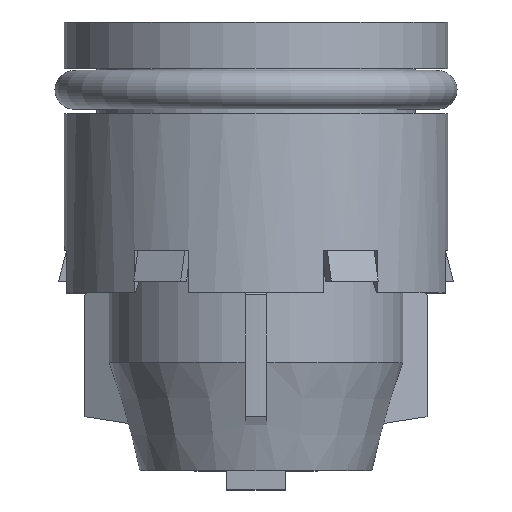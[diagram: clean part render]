
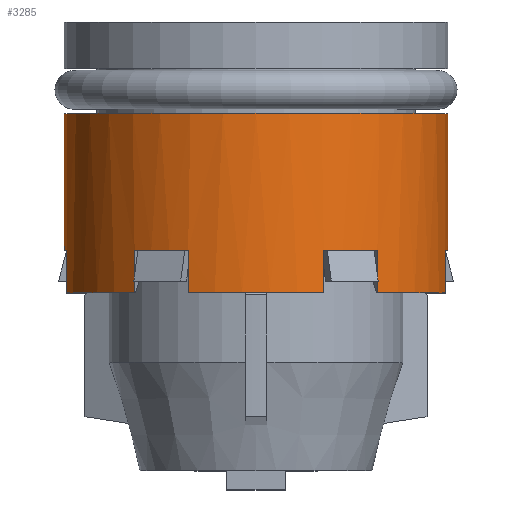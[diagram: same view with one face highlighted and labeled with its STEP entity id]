
A CAD part, top view. The second image highlights one B-rep face of the part: STEP entity #3285.
In plain terms, the highlighted cylindrical face has radius 12.4 mm (diameter 24.8 mm), a full revolution.
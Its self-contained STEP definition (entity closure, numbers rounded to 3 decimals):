
#1743=CARTESIAN_POINT('',(613.078,402.787,11.598));
#1744=VERTEX_POINT('',#1743);
#1745=CARTESIAN_POINT('',(613.078,400.037,11.598));
#1746=VERTEX_POINT('',#1745);
#1747=CARTESIAN_POINT('',(613.078,402.787,11.598));
#1748=DIRECTION('',(0.0,-1.0,0.0));
#1749=VECTOR('',#1748,2.75);
#1750=LINE('',#1747,#1749);
#1751=EDGE_CURVE('',#1744,#1746,#1750,.T.);
#1774=CARTESIAN_POINT('',(609.614,400.037,9.598));
#1775=VERTEX_POINT('',#1774);
#1776=CARTESIAN_POINT('',(609.614,402.787,9.598));
#1777=VERTEX_POINT('',#1776);
#1778=CARTESIAN_POINT('',(609.614,400.037,9.598));
#1779=DIRECTION('',(0.0,1.0,0.0));
#1780=VECTOR('',#1779,2.75);
#1781=LINE('',#1778,#1780);
#1782=EDGE_CURVE('',#1775,#1777,#1781,.T.);
#1805=CARTESIAN_POINT('',(617.465,402.787,0.0));
#1806=DIRECTION('',(0.0,1.0,0.0));
#1807=DIRECTION('',(1.0,0.0,0.0));
#1808=AXIS2_PLACEMENT_3D('',#1805,#1806,#1807);
#1809=CIRCLE('',#1808,12.4);
#1810=EDGE_CURVE('',#1777,#1744,#1809,.T.);
#1829=CARTESIAN_POINT('',(605.227,402.787,2.));
#1830=VERTEX_POINT('',#1829);
#1831=CARTESIAN_POINT('',(605.227,400.037,2.));
#1832=VERTEX_POINT('',#1831);
#1833=CARTESIAN_POINT('',(605.227,402.787,2.));
#1834=DIRECTION('',(0.0,-1.0,0.0));
#1835=VECTOR('',#1834,2.75);
#1836=LINE('',#1833,#1835);
#1837=EDGE_CURVE('',#1830,#1832,#1836,.T.);
#1860=CARTESIAN_POINT('',(605.227,400.037,-2.));
#1861=VERTEX_POINT('',#1860);
#1862=CARTESIAN_POINT('',(605.227,402.787,-2.));
#1863=VERTEX_POINT('',#1862);
#1864=CARTESIAN_POINT('',(605.227,400.037,-2.));
#1865=DIRECTION('',(0.0,1.0,0.0));
#1866=VECTOR('',#1865,2.75);
#1867=LINE('',#1864,#1866);
#1868=EDGE_CURVE('',#1861,#1863,#1867,.T.);
#1891=CARTESIAN_POINT('',(617.465,402.787,0.0));
#1892=DIRECTION('',(0.0,1.0,0.0));
#1893=DIRECTION('',(1.0,0.0,0.0));
#1894=AXIS2_PLACEMENT_3D('',#1891,#1892,#1893);
#1895=CIRCLE('',#1894,12.4);
#1896=EDGE_CURVE('',#1863,#1830,#1895,.T.);
#1915=CARTESIAN_POINT('',(609.614,402.787,-9.598));
#1916=VERTEX_POINT('',#1915);
#1917=CARTESIAN_POINT('',(609.614,400.037,-9.598));
#1918=VERTEX_POINT('',#1917);
#1919=CARTESIAN_POINT('',(609.614,402.787,-9.598));
#1920=DIRECTION('',(0.0,-1.0,0.0));
#1921=VECTOR('',#1920,2.75);
#1922=LINE('',#1919,#1921);
#1923=EDGE_CURVE('',#1916,#1918,#1922,.T.);
#1962=CARTESIAN_POINT('',(613.078,400.037,-11.598));
#1963=VERTEX_POINT('',#1962);
#1964=CARTESIAN_POINT('',(613.078,402.787,-11.598));
#1965=VERTEX_POINT('',#1964);
#1966=CARTESIAN_POINT('',(613.078,400.037,-11.598));
#1967=DIRECTION('',(0.0,1.0,0.0));
#1968=VECTOR('',#1967,2.75);
#1969=LINE('',#1966,#1968);
#1970=EDGE_CURVE('',#1963,#1965,#1969,.T.);
#2009=CARTESIAN_POINT('',(617.465,402.787,0.0));
#2010=DIRECTION('',(0.0,1.0,0.0));
#2011=DIRECTION('',(1.0,0.0,0.0));
#2012=AXIS2_PLACEMENT_3D('',#2009,#2010,#2011);
#2013=CIRCLE('',#2012,12.4);
#2014=EDGE_CURVE('',#1965,#1916,#2013,.T.);
#2039=CARTESIAN_POINT('',(621.852,402.787,-11.598));
#2040=VERTEX_POINT('',#2039);
#2041=CARTESIAN_POINT('',(621.852,400.037,-11.598));
#2042=VERTEX_POINT('',#2041);
#2043=CARTESIAN_POINT('',(621.852,402.787,-11.598));
#2044=DIRECTION('',(0.0,-1.0,0.0));
#2045=VECTOR('',#2044,2.75);
#2046=LINE('',#2043,#2045);
#2047=EDGE_CURVE('',#2040,#2042,#2046,.T.);
#2086=CARTESIAN_POINT('',(625.316,400.037,-9.598));
#2087=VERTEX_POINT('',#2086);
#2088=CARTESIAN_POINT('',(625.316,402.787,-9.598));
#2089=VERTEX_POINT('',#2088);
#2090=CARTESIAN_POINT('',(625.316,400.037,-9.598));
#2091=DIRECTION('',(0.0,1.0,0.0));
#2092=VECTOR('',#2091,2.75);
#2093=LINE('',#2090,#2092);
#2094=EDGE_CURVE('',#2087,#2089,#2093,.T.);
#2133=CARTESIAN_POINT('',(617.465,402.787,0.0));
#2134=DIRECTION('',(0.0,1.0,0.0));
#2135=DIRECTION('',(1.0,0.0,0.0));
#2136=AXIS2_PLACEMENT_3D('',#2133,#2134,#2135);
#2137=CIRCLE('',#2136,12.4);
#2138=EDGE_CURVE('',#2089,#2040,#2137,.T.);
#2163=CARTESIAN_POINT('',(629.703,402.787,-2.));
#2164=VERTEX_POINT('',#2163);
#2165=CARTESIAN_POINT('',(629.703,400.037,-2.));
#2166=VERTEX_POINT('',#2165);
#2167=CARTESIAN_POINT('',(629.703,402.787,-2.));
#2168=DIRECTION('',(0.0,-1.0,0.0));
#2169=VECTOR('',#2168,2.75);
#2170=LINE('',#2167,#2169);
#2171=EDGE_CURVE('',#2164,#2166,#2170,.T.);
#2210=CARTESIAN_POINT('',(629.703,400.037,2.));
#2211=VERTEX_POINT('',#2210);
#2212=CARTESIAN_POINT('',(629.703,402.787,2.));
#2213=VERTEX_POINT('',#2212);
#2214=CARTESIAN_POINT('',(629.703,400.037,2.));
#2215=DIRECTION('',(0.0,1.0,0.0));
#2216=VECTOR('',#2215,2.75);
#2217=LINE('',#2214,#2216);
#2218=EDGE_CURVE('',#2211,#2213,#2217,.T.);
#2257=CARTESIAN_POINT('',(617.465,402.787,0.0));
#2258=DIRECTION('',(0.0,1.0,0.0));
#2259=DIRECTION('',(1.0,0.0,0.0));
#2260=AXIS2_PLACEMENT_3D('',#2257,#2258,#2259);
#2261=CIRCLE('',#2260,12.4);
#2262=EDGE_CURVE('',#2213,#2164,#2261,.T.);
#2444=CARTESIAN_POINT('',(625.316,400.037,9.598));
#2445=VERTEX_POINT('',#2444);
#2446=CARTESIAN_POINT('',(617.465,400.037,0.0));
#2447=DIRECTION('',(0.0,-1.0,0.0));
#2448=DIRECTION('',(1.0,0.0,0.0));
#2449=AXIS2_PLACEMENT_3D('',#2446,#2447,#2448);
#2450=CIRCLE('',#2449,12.4);
#2451=EDGE_CURVE('',#2211,#2445,#2450,.T.);
#2469=CARTESIAN_POINT('',(617.465,400.037,0.0));
#2470=DIRECTION('',(0.0,-1.0,0.0));
#2471=DIRECTION('',(1.0,0.0,0.0));
#2472=AXIS2_PLACEMENT_3D('',#2469,#2470,#2471);
#2473=CIRCLE('',#2472,12.4);
#2474=EDGE_CURVE('',#2087,#2166,#2473,.T.);
#2495=CARTESIAN_POINT('',(617.465,400.037,0.0));
#2496=DIRECTION('',(0.0,-1.0,0.0));
#2497=DIRECTION('',(1.0,0.0,0.0));
#2498=AXIS2_PLACEMENT_3D('',#2495,#2496,#2497);
#2499=CIRCLE('',#2498,12.4);
#2500=EDGE_CURVE('',#1963,#2042,#2499,.T.);
#2513=CARTESIAN_POINT('',(617.465,400.037,0.0));
#2514=DIRECTION('',(0.0,-1.0,0.0));
#2515=DIRECTION('',(1.0,0.0,0.0));
#2516=AXIS2_PLACEMENT_3D('',#2513,#2514,#2515);
#2517=CIRCLE('',#2516,12.4);
#2518=EDGE_CURVE('',#1861,#1918,#2517,.T.);
#2539=CARTESIAN_POINT('',(617.465,400.037,0.0));
#2540=DIRECTION('',(0.0,-1.0,0.0));
#2541=DIRECTION('',(1.0,0.0,0.0));
#2542=AXIS2_PLACEMENT_3D('',#2539,#2540,#2541);
#2543=CIRCLE('',#2542,12.4);
#2544=EDGE_CURVE('',#1775,#1832,#2543,.T.);
#2692=CARTESIAN_POINT('',(625.316,402.787,9.598));
#2693=VERTEX_POINT('',#2692);
#2694=CARTESIAN_POINT('',(625.316,402.787,9.598));
#2695=DIRECTION('',(0.0,-1.0,0.0));
#2696=VECTOR('',#2695,2.75);
#2697=LINE('',#2694,#2696);
#2698=EDGE_CURVE('',#2693,#2445,#2697,.T.);
#2716=CARTESIAN_POINT('',(621.852,400.037,11.598));
#2717=VERTEX_POINT('',#2716);
#2718=CARTESIAN_POINT('',(621.852,402.787,11.598));
#2719=VERTEX_POINT('',#2718);
#2720=CARTESIAN_POINT('',(621.852,400.037,11.598));
#2721=DIRECTION('',(0.0,1.0,0.0));
#2722=VECTOR('',#2721,2.75);
#2723=LINE('',#2720,#2722);
#2724=EDGE_CURVE('',#2717,#2719,#2723,.T.);
#2747=CARTESIAN_POINT('',(617.465,402.787,0.0));
#2748=DIRECTION('',(0.0,1.0,0.0));
#2749=DIRECTION('',(1.0,0.0,0.0));
#2750=AXIS2_PLACEMENT_3D('',#2747,#2748,#2749);
#2751=CIRCLE('',#2750,12.4);
#2752=EDGE_CURVE('',#2719,#2693,#2751,.T.);
#2782=CARTESIAN_POINT('',(617.465,400.037,0.0));
#2783=DIRECTION('',(0.0,-1.0,0.0));
#2784=DIRECTION('',(1.0,0.0,0.0));
#2785=AXIS2_PLACEMENT_3D('',#2782,#2783,#2784);
#2786=CIRCLE('',#2785,12.4);
#2787=EDGE_CURVE('',#2717,#1746,#2786,.T.);
#3236=CARTESIAN_POINT('',(629.865,411.637,0.0));
#3237=VERTEX_POINT('',#3236);
#3238=CARTESIAN_POINT('',(617.465,411.637,0.0));
#3239=DIRECTION('',(0.0,-1.0,0.0));
#3240=DIRECTION('',(1.0,0.0,0.0));
#3241=AXIS2_PLACEMENT_3D('',#3238,#3239,#3240);
#3242=CIRCLE('',#3241,12.4);
#3243=EDGE_CURVE('',#3237,#3237,#3242,.T.);
#3251=CARTESIAN_POINT('',(617.465,405.837,0.0));
#3252=DIRECTION('',(0.0,-1.0,0.0));
#3253=DIRECTION('',(1.0,0.0,0.0));
#3254=AXIS2_PLACEMENT_3D('',#3251,#3252,#3253);
#3255=CYLINDRICAL_SURFACE('',#3254,12.4);
#3256=ORIENTED_EDGE('',*,*,#1751,.T.);
#3257=ORIENTED_EDGE('',*,*,#2787,.F.);
#3258=ORIENTED_EDGE('',*,*,#2724,.T.);
#3259=ORIENTED_EDGE('',*,*,#2752,.T.);
#3260=ORIENTED_EDGE('',*,*,#2698,.T.);
#3261=ORIENTED_EDGE('',*,*,#2451,.F.);
#3262=ORIENTED_EDGE('',*,*,#2218,.T.);
#3263=ORIENTED_EDGE('',*,*,#2262,.T.);
#3264=ORIENTED_EDGE('',*,*,#2171,.T.);
#3265=ORIENTED_EDGE('',*,*,#2474,.F.);
#3266=ORIENTED_EDGE('',*,*,#2094,.T.);
#3267=ORIENTED_EDGE('',*,*,#2138,.T.);
#3268=ORIENTED_EDGE('',*,*,#2047,.T.);
#3269=ORIENTED_EDGE('',*,*,#2500,.F.);
#3270=ORIENTED_EDGE('',*,*,#1970,.T.);
#3271=ORIENTED_EDGE('',*,*,#2014,.T.);
#3272=ORIENTED_EDGE('',*,*,#1923,.T.);
#3273=ORIENTED_EDGE('',*,*,#2518,.F.);
#3274=ORIENTED_EDGE('',*,*,#1868,.T.);
#3275=ORIENTED_EDGE('',*,*,#1896,.T.);
#3276=ORIENTED_EDGE('',*,*,#1837,.T.);
#3277=ORIENTED_EDGE('',*,*,#2544,.F.);
#3278=ORIENTED_EDGE('',*,*,#1782,.T.);
#3279=ORIENTED_EDGE('',*,*,#1810,.T.);
#3280=EDGE_LOOP('',(#3256,#3257,#3258,#3259,#3260,#3261,#3262,#3263,#3264,#3265,#3266,#3267,#3268,#3269,#3270,#3271,#3272,#3273,#3274,#3275,#3276,#3277,#3278,#3279));
#3281=FACE_OUTER_BOUND('',#3280,.T.);
#3282=ORIENTED_EDGE('',*,*,#3243,.T.);
#3283=EDGE_LOOP('',(#3282));
#3284=FACE_BOUND('',#3283,.T.);
#3285=ADVANCED_FACE('',(#3281,#3284),#3255,.T.);
